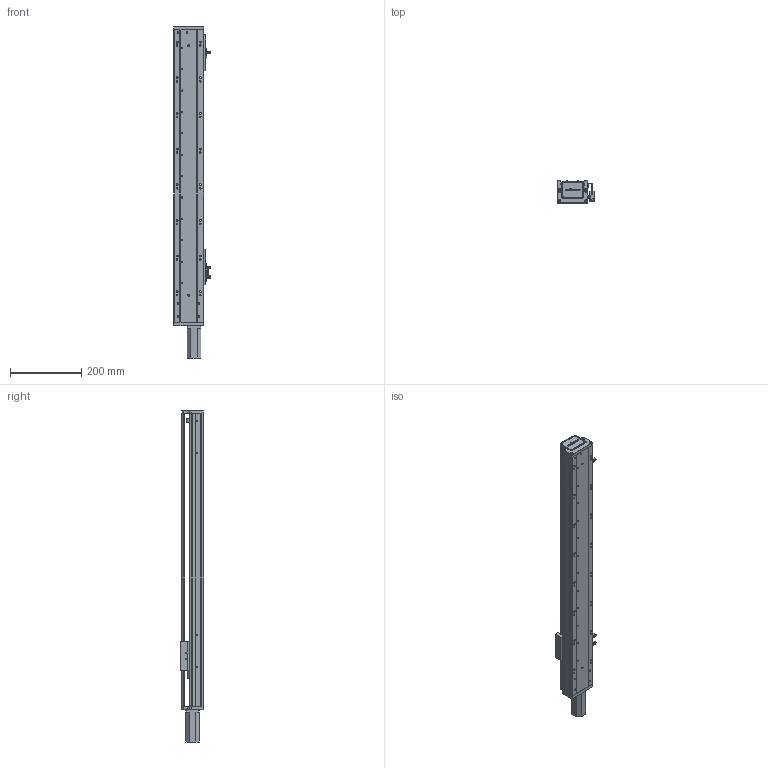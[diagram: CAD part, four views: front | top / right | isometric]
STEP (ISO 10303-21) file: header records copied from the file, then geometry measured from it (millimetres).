
FILE_DESCRIPTION (( 'STEP AP203' ), '1' );
FILE_NAME ('RY80-L1620-300-MK(100W).SLDASM_600.step', '2021-02-20T02:19:50', ( '' ), ( '' ), 'SwSTEP 2.0', 'SolidWorks 2012', '' );
FILE_SCHEMA (( 'CONFIG_CONTROL_DESIGN' ));
Products named in the file (12): RY80-300-MK倰第菁釱_600; RY80-L1620-300-MK(100W).SLDASM_600; 侂狟100W; 672嫖萇羲壽假蚾釱; 覜茼ん672; RY80俋离覜茼え; 滅袉蝶18-24; RY80綴裔啣; RY80-300-MK倰第奻裔啣_600; RY80前盖板(100W电机)M3; 滅袉蝶18-10; RY80臏賑輸
Assembly tree (14 placements, depth 2):
  RY80-L1620-300-MK(100W).SLDASM_600
    RY80-300-MK倰第菁釱_600
    RY80臏賑輸
    RY80-300-MK倰第奻裔啣_600
    RY80前盖板(100W电机)M3
    RY80綴裔啣
    滅袉蝶18-10
    672嫖萇羲壽假蚾釱  x2
    覜茼ん672  x3
    RY80俋离覜茼え
    滅袉蝶18-24
    侂狟100W
Bounding box: 103.7 x 65 x 931 mm (x, y, z)
Volume: 1385545.4 mm3; surface area: 580358.4 mm2
Topology: 14 solids, 14 shells, 1629 faces, 4577 edges, 2989 vertices
Faces by surface type: plane 916, cylinder 605, cone 74, bspline 34
Entity records: 51626 total; most frequent: CARTESIAN_POINT 13971, ORIENTED_EDGE 7922, DIRECTION 7022, EDGE_CURVE 3961, VERTEX_POINT 2605, VECTOR 2398, LINE 2398, AXIS2_PLACEMENT_3D 2312
